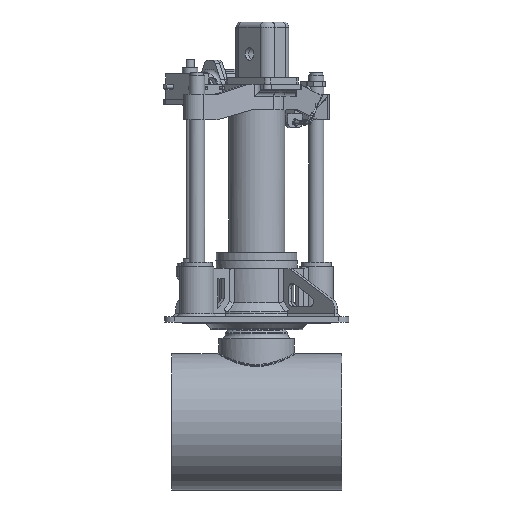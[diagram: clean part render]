
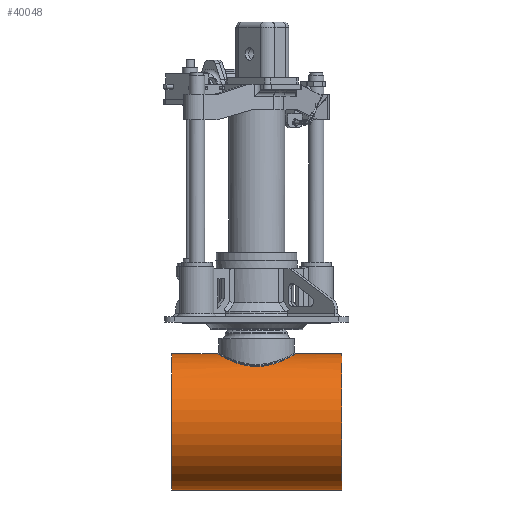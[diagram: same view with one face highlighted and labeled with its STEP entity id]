
A CAD part, left-side view. The second image highlights one B-rep face of the part: STEP entity #40048.
In plain terms, the highlighted cylindrical face has radius 133 mm (diameter 266 mm), a full revolution.
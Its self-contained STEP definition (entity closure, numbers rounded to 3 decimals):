
#880=B_SPLINE_CURVE_WITH_KNOTS('',3,(#79587,#79588,#79589,#79590,#79591,
#79592,#79593,#79594,#79595,#79596,#79597,#79598,#79599,#79600,#79601,#79602,
#79603,#79604),.UNSPECIFIED.,.F.,.F.,(4,2,2,2,2,2,2,2,4),(35.814,
37.302,38.79,40.279,41.767,43.263,
44.76,46.256,47.752),.UNSPECIFIED.);
#881=B_SPLINE_CURVE_WITH_KNOTS('',3,(#79606,#79607,#79608,#79609,#79610,
#79611,#79612,#79613,#79614,#79615,#79616,#79617,#79618,#79619,#79620,#79621,
#79622,#79623),.UNSPECIFIED.,.F.,.F.,(4,2,2,2,2,2,2,2,4),(23.876,
25.372,26.869,28.365,29.861,31.349,
32.838,34.326,35.814),.UNSPECIFIED.);
#882=B_SPLINE_CURVE_WITH_KNOTS('',3,(#79625,#79626,#79627,#79628,#79629,
#79630,#79631,#79632,#79633,#79634,#79635,#79636,#79637,#79638,#79639,#79640,
#79641,#79642),.UNSPECIFIED.,.F.,.F.,(4,2,2,2,2,2,2,2,4),(11.938,
13.426,14.914,16.403,17.891,19.387,
20.883,22.38,23.876),.UNSPECIFIED.);
#883=B_SPLINE_CURVE_WITH_KNOTS('',3,(#79643,#79644,#79645,#79646,#79647,
#79648,#79649,#79650,#79651,#79652,#79653,#79654,#79655,#79656,#79657,#79658,
#79659,#79660),.UNSPECIFIED.,.F.,.F.,(4,2,2,2,2,2,2,2,4),(0.,1.496,
2.993,4.489,5.985,7.473,8.962,
10.45,11.938),.UNSPECIFIED.);
#1297=FACE_BOUND('',#6663,.T.);
#4373=FACE_OUTER_BOUND('',#6662,.T.);
#6662=EDGE_LOOP('',(#34728,#34729,#34730,#34731));
#6663=EDGE_LOOP('',(#34732,#34733,#34734,#34735));
#9766=LINE('',#79773,#12829);
#12829=VECTOR('',#54255,133.);
#14576=CIRCLE('',#43818,133.);
#14577=CIRCLE('',#43819,133.);
#18183=VERTEX_POINT('',#79584);
#18184=VERTEX_POINT('',#79586);
#18185=VERTEX_POINT('',#79605);
#18186=VERTEX_POINT('',#79624);
#18200=VERTEX_POINT('',#79770);
#18201=VERTEX_POINT('',#79772);
#23729=EDGE_CURVE('',#18184,#18183,#880,.T.);
#23730=EDGE_CURVE('',#18185,#18184,#881,.T.);
#23731=EDGE_CURVE('',#18186,#18185,#882,.T.);
#23732=EDGE_CURVE('',#18183,#18186,#883,.T.);
#23748=EDGE_CURVE('',#18200,#18200,#14576,.T.);
#23749=EDGE_CURVE('',#18200,#18201,#9766,.T.);
#23750=EDGE_CURVE('',#18201,#18201,#14577,.T.);
#34728=ORIENTED_EDGE('',*,*,#23748,.T.);
#34729=ORIENTED_EDGE('',*,*,#23749,.T.);
#34730=ORIENTED_EDGE('',*,*,#23750,.T.);
#34731=ORIENTED_EDGE('',*,*,#23749,.F.);
#34732=ORIENTED_EDGE('',*,*,#23732,.T.);
#34733=ORIENTED_EDGE('',*,*,#23731,.T.);
#34734=ORIENTED_EDGE('',*,*,#23730,.T.);
#34735=ORIENTED_EDGE('',*,*,#23729,.T.);
#35971=CYLINDRICAL_SURFACE('',#43817,133.);
#40048=ADVANCED_FACE('',(#4373,#1297),#35971,.T.);
#43817=AXIS2_PLACEMENT_3D('',#79769,#54251,#54252);
#43818=AXIS2_PLACEMENT_3D('',#79771,#54253,#54254);
#43819=AXIS2_PLACEMENT_3D('',#79774,#54256,#54257);
#54251=DIRECTION('center_axis',(0.,1.,0.));
#54252=DIRECTION('ref_axis',(0.,0.,
1.));
#54253=DIRECTION('center_axis',(0.,-1.,0.));
#54254=DIRECTION('ref_axis',(0.,0.,
1.));
#54255=DIRECTION('',(0.,-1.,0.));
#54256=DIRECTION('center_axis',(0.,1.,0.));
#54257=DIRECTION('ref_axis',(0.,0.,
1.));
#79584=CARTESIAN_POINT('',(77.,0.,-84.256));
#79586=CARTESIAN_POINT('',(0.,77.,-59.7));
#79587=CARTESIAN_POINT('Ctrl Pts',(0.,77.,
-59.7));
#79588=CARTESIAN_POINT('Ctrl Pts',(4.961,77.,-59.7));
#79589=CARTESIAN_POINT('Ctrl Pts',(10.054,76.513,-59.984));
#79590=CARTESIAN_POINT('Ctrl Pts',(20.111,74.504,-61.132));
#79591=CARTESIAN_POINT('Ctrl Pts',(25.075,72.983,-61.995));
#79592=CARTESIAN_POINT('Ctrl Pts',(34.531,69.014,-64.169));
#79593=CARTESIAN_POINT('Ctrl Pts',(39.032,66.562,-65.481));
#79594=CARTESIAN_POINT('Ctrl Pts',(47.319,60.951,-68.325));
#79595=CARTESIAN_POINT('Ctrl Pts',(51.104,57.791,-69.855));
#79596=CARTESIAN_POINT('Ctrl Pts',(57.809,51.086,-72.864));
#79597=CARTESIAN_POINT('Ctrl Pts',(60.972,47.291,-74.456));
#79598=CARTESIAN_POINT('Ctrl Pts',(66.576,39.008,-77.518));
#79599=CARTESIAN_POINT('Ctrl Pts',(69.019,34.519,-78.986));
#79600=CARTESIAN_POINT('Ctrl Pts',(72.977,25.089,-81.485));
#79601=CARTESIAN_POINT('Ctrl Pts',(74.496,20.139,-82.515));
#79602=CARTESIAN_POINT('Ctrl Pts',(76.508,10.089,-83.902));
#79603=CARTESIAN_POINT('Ctrl Pts',(77.,4.988,-84.256));
#79604=CARTESIAN_POINT('Ctrl Pts',(77.,0.,
-84.256));
#79605=CARTESIAN_POINT('',(-77.,0.,-84.256));
#79606=CARTESIAN_POINT('Ctrl Pts',(-77.,0.,
-84.256));
#79607=CARTESIAN_POINT('Ctrl Pts',(-77.,4.988,-84.256));
#79608=CARTESIAN_POINT('Ctrl Pts',(-76.508,10.089,-83.902));
#79609=CARTESIAN_POINT('Ctrl Pts',(-74.496,20.139,-82.515));
#79610=CARTESIAN_POINT('Ctrl Pts',(-72.977,25.089,-81.485));
#79611=CARTESIAN_POINT('Ctrl Pts',(-69.019,34.519,-78.986));
#79612=CARTESIAN_POINT('Ctrl Pts',(-66.576,39.008,-77.518));
#79613=CARTESIAN_POINT('Ctrl Pts',(-60.972,47.291,-74.456));
#79614=CARTESIAN_POINT('Ctrl Pts',(-57.809,51.086,-72.864));
#79615=CARTESIAN_POINT('Ctrl Pts',(-51.104,57.791,-69.855));
#79616=CARTESIAN_POINT('Ctrl Pts',(-47.319,60.951,-68.325));
#79617=CARTESIAN_POINT('Ctrl Pts',(-39.032,66.562,-65.481));
#79618=CARTESIAN_POINT('Ctrl Pts',(-34.531,69.014,-64.169));
#79619=CARTESIAN_POINT('Ctrl Pts',(-25.075,72.983,-61.995));
#79620=CARTESIAN_POINT('Ctrl Pts',(-20.111,74.504,-61.132));
#79621=CARTESIAN_POINT('Ctrl Pts',(-10.054,76.513,-59.984));
#79622=CARTESIAN_POINT('Ctrl Pts',(-4.961,77.,-59.7));
#79623=CARTESIAN_POINT('Ctrl Pts',(0.,77.,
-59.7));
#79624=CARTESIAN_POINT('',(0.,-77.,-59.7));
#79625=CARTESIAN_POINT('Ctrl Pts',(0.,-77.,
-59.7));
#79626=CARTESIAN_POINT('Ctrl Pts',(-4.961,-77.,
-59.7));
#79627=CARTESIAN_POINT('Ctrl Pts',(-10.054,-76.513,
-59.984));
#79628=CARTESIAN_POINT('Ctrl Pts',(-20.111,-74.504,
-61.132));
#79629=CARTESIAN_POINT('Ctrl Pts',(-25.075,-72.983,
-61.995));
#79630=CARTESIAN_POINT('Ctrl Pts',(-34.531,-69.014,
-64.169));
#79631=CARTESIAN_POINT('Ctrl Pts',(-39.032,-66.562,
-65.481));
#79632=CARTESIAN_POINT('Ctrl Pts',(-47.319,-60.951,
-68.325));
#79633=CARTESIAN_POINT('Ctrl Pts',(-51.104,-57.791,
-69.855));
#79634=CARTESIAN_POINT('Ctrl Pts',(-57.809,-51.086,
-72.864));
#79635=CARTESIAN_POINT('Ctrl Pts',(-60.972,-47.291,-74.456));
#79636=CARTESIAN_POINT('Ctrl Pts',(-66.576,-39.008,
-77.518));
#79637=CARTESIAN_POINT('Ctrl Pts',(-69.019,-34.519,
-78.986));
#79638=CARTESIAN_POINT('Ctrl Pts',(-72.977,-25.089,
-81.485));
#79639=CARTESIAN_POINT('Ctrl Pts',(-74.496,-20.139,
-82.515));
#79640=CARTESIAN_POINT('Ctrl Pts',(-76.508,-10.089,
-83.902));
#79641=CARTESIAN_POINT('Ctrl Pts',(-77.,-4.988,
-84.256));
#79642=CARTESIAN_POINT('Ctrl Pts',(-77.,0.,
-84.256));
#79643=CARTESIAN_POINT('Ctrl Pts',(77.,0.,
-84.256));
#79644=CARTESIAN_POINT('Ctrl Pts',(77.,-4.988,-84.256));
#79645=CARTESIAN_POINT('Ctrl Pts',(76.508,-10.089,-83.902));
#79646=CARTESIAN_POINT('Ctrl Pts',(74.496,-20.139,-82.515));
#79647=CARTESIAN_POINT('Ctrl Pts',(72.977,-25.089,-81.485));
#79648=CARTESIAN_POINT('Ctrl Pts',(69.019,-34.519,-78.986));
#79649=CARTESIAN_POINT('Ctrl Pts',(66.576,-39.008,-77.518));
#79650=CARTESIAN_POINT('Ctrl Pts',(60.972,-47.291,-74.456));
#79651=CARTESIAN_POINT('Ctrl Pts',(57.809,-51.086,-72.864));
#79652=CARTESIAN_POINT('Ctrl Pts',(51.104,-57.791,-69.855));
#79653=CARTESIAN_POINT('Ctrl Pts',(47.319,-60.951,-68.325));
#79654=CARTESIAN_POINT('Ctrl Pts',(39.032,-66.562,-65.481));
#79655=CARTESIAN_POINT('Ctrl Pts',(34.531,-69.014,-64.169));
#79656=CARTESIAN_POINT('Ctrl Pts',(25.075,-72.983,-61.995));
#79657=CARTESIAN_POINT('Ctrl Pts',(20.111,-74.504,-61.132));
#79658=CARTESIAN_POINT('Ctrl Pts',(10.054,-76.513,-59.984));
#79659=CARTESIAN_POINT('Ctrl Pts',(4.961,-77.,-59.7));
#79660=CARTESIAN_POINT('Ctrl Pts',(0.,-77.,
-59.7));
#79769=CARTESIAN_POINT('Origin',(0.,0.,
-192.7));
#79770=CARTESIAN_POINT('',(0.,166.3,-325.7));
#79771=CARTESIAN_POINT('Origin',(0.,166.3,
-192.7));
#79772=CARTESIAN_POINT('',(0.,-166.3,-325.7));
#79773=CARTESIAN_POINT('',(0.,0.,-325.7));
#79774=CARTESIAN_POINT('Origin',(0.,-166.3,
-192.7));
